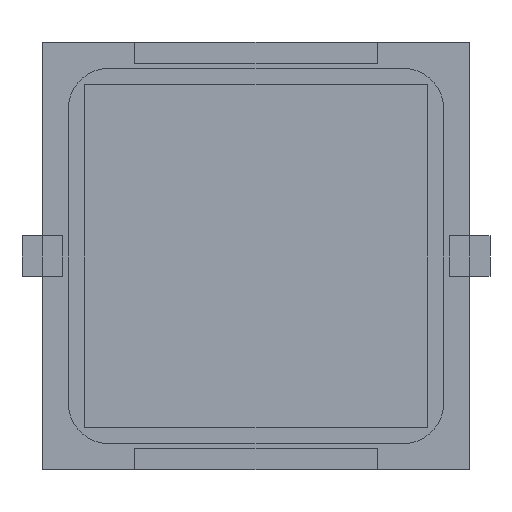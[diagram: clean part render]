
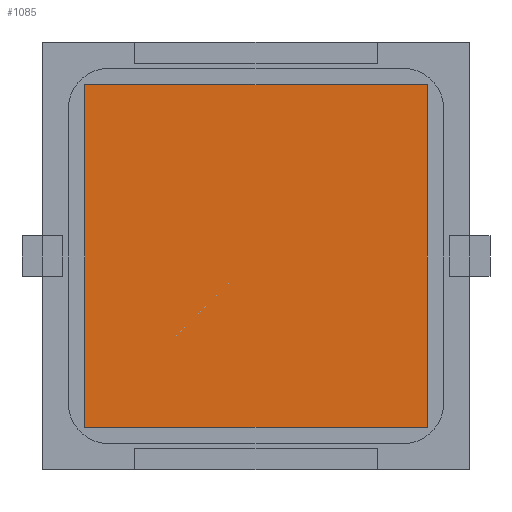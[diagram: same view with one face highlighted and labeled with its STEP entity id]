
A CAD part, front view. The second image highlights one B-rep face of the part: STEP entity #1085.
In plain terms, the highlighted planar face has unit normal (0, -1, 0).
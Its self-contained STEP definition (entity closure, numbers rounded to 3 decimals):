
#275 = EDGE_CURVE ( 'NONE', #3236, #1483, #5242, .T. ) ;
#439 = EDGE_CURVE ( 'NONE', #1483, #2354, #4605, .T. ) ;
#551 = LINE ( 'NONE', #1903, #5808 ) ;
#953 = CARTESIAN_POINT ( 'NONE',  ( 8.5, -0.127, 8.5 ) ) ;
#966 = LINE ( 'NONE', #2770, #2485 ) ;
#1076 = ORIENTED_EDGE ( 'NONE', *, *, #275, .F. ) ;
#1085 = ADVANCED_FACE ( 'NONE', ( #5790 ), #4467, .F. ) ;
#1200 = CARTESIAN_POINT ( 'NONE',  ( -8.5, -0.127, 8.5 ) ) ;
#1483 = VERTEX_POINT ( 'NONE', #953 ) ;
#1496 = EDGE_LOOP ( 'NONE', ( #3161, #4495, #2445, #1076 ) ) ;
#1901 = DIRECTION ( 'NONE',  ( -1., 0., 0. ) ) ;
#1903 = CARTESIAN_POINT ( 'NONE',  ( -8.5, -0.127, -8.5 ) ) ;
#2004 = CARTESIAN_POINT ( 'NONE',  ( 8.5, -0.127, -8.5 ) ) ;
#2354 = VERTEX_POINT ( 'NONE', #4753 ) ;
#2445 = ORIENTED_EDGE ( 'NONE', *, *, #439, .F. ) ;
#2485 = VECTOR ( 'NONE', #1901, 1000. ) ;
#2661 = AXIS2_PLACEMENT_3D ( 'NONE', #3537, #5400, #5368 ) ;
#2770 = CARTESIAN_POINT ( 'NONE',  ( -8.5, -0.127, -8.5 ) ) ;
#3161 = ORIENTED_EDGE ( 'NONE', *, *, #5755, .F. ) ;
#3236 = VERTEX_POINT ( 'NONE', #4818 ) ;
#3537 = CARTESIAN_POINT ( 'NONE',  ( -8.5, -0.127, 8.5 ) ) ;
#3619 = VECTOR ( 'NONE', #4784, 1000. ) ;
#3661 = DIRECTION ( 'NONE',  ( 0., 0., 1. ) ) ;
#3669 = CARTESIAN_POINT ( 'NONE',  ( -8.5, -0.127, -8.5 ) ) ;
#4087 = DIRECTION ( 'NONE',  ( 0., 0., -1. ) ) ;
#4141 = EDGE_CURVE ( 'NONE', #2354, #5526, #966, .T. ) ;
#4467 = PLANE ( 'NONE',  #2661 ) ;
#4495 = ORIENTED_EDGE ( 'NONE', *, *, #4141, .F. ) ;
#4544 = VECTOR ( 'NONE', #4087, 1000. ) ;
#4605 = LINE ( 'NONE', #2004, #4544 ) ;
#4753 = CARTESIAN_POINT ( 'NONE',  ( 8.5, -0.127, -8.5 ) ) ;
#4784 = DIRECTION ( 'NONE',  ( 1., 0., 0. ) ) ;
#4818 = CARTESIAN_POINT ( 'NONE',  ( -8.5, -0.127, 8.5 ) ) ;
#5242 = LINE ( 'NONE', #1200, #3619 ) ;
#5368 = DIRECTION ( 'NONE',  ( 0., 0., 1. ) ) ;
#5400 = DIRECTION ( 'NONE',  ( 0., 1., 0. ) ) ;
#5526 = VERTEX_POINT ( 'NONE', #3669 ) ;
#5755 = EDGE_CURVE ( 'NONE', #5526, #3236, #551, .T. ) ;
#5790 = FACE_OUTER_BOUND ( 'NONE', #1496, .T. ) ;
#5808 = VECTOR ( 'NONE', #3661, 1000. ) ;
